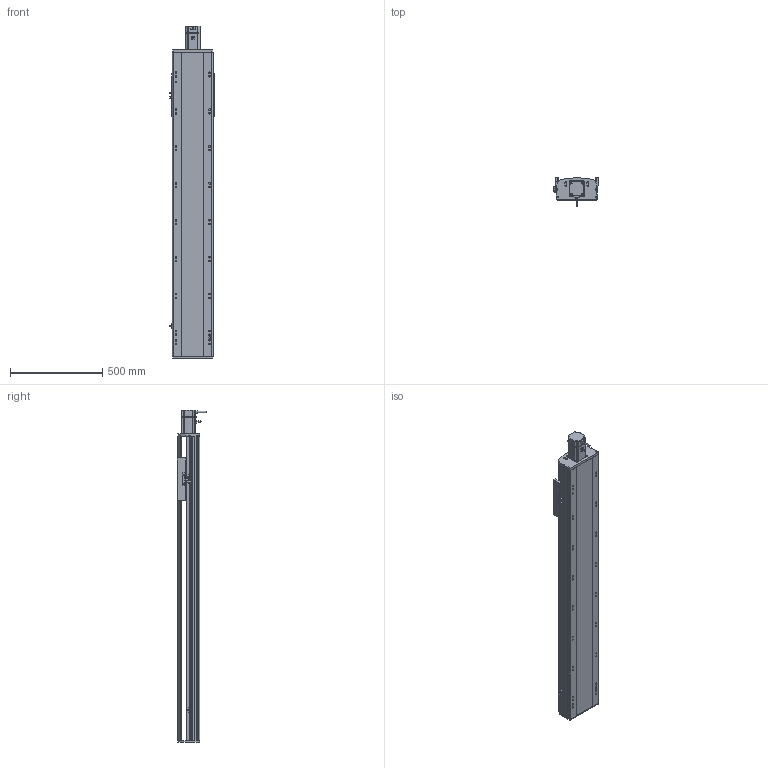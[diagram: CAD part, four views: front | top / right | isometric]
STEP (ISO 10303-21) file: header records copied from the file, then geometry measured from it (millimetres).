
FILE_DESCRIPTION (( 'STEP AP214' ), '1' );
FILE_NAME ('RTH22-XX-1250-E-M75-C4.STEP', '2025-10-24T10:48:41', ( 'Microsoft' ), ( 'Microsoft' ), 'SwSTEP 2.0', 'SolidWorks 2018', '' );
FILE_SCHEMA (( 'AUTOMOTIVE_DESIGN' ));
Length unit declared in the file: millimetre
Products named in the file (9): N_RTH22-E-008萇儂啣^RTH22-XX-XX-E-M75-C4; N_RTH22-E-007奻裔^RTH22-XX-XX-E-M75-C4; N_RTH22-E-011菁釱^RTH22-XX-XX-E-M75-C4; RTH22-XX-1250-E-M75-C4; N_750W萇儂^RTH22-XX-XX-E-M75-C4; N_RTH22-GY-001耜裔^RTH22-XX-XX-E-M75-C4; N_RTH22-E-004-SFS25賑釱^RTH22-XX-XX-E-M75-C4; N_OMRON EE-SX672 传感器^RTH22-XX-XX-E-M75-C4; N_RTH22-GY-013外置感应片^RTH22-XX-XX-E-M75-C4
Assembly tree (10 placements, depth 2):
  RTH22-XX-1250-E-M75-C4
    N_RTH22-E-011菁釱^RTH22-XX-XX-E-M75-C4
    N_RTH22-GY-001耜裔^RTH22-XX-XX-E-M75-C4
    N_RTH22-E-008萇儂啣^RTH22-XX-XX-E-M75-C4
    N_RTH22-E-007奻裔^RTH22-XX-XX-E-M75-C4
    N_RTH22-GY-013外置感应片^RTH22-XX-XX-E-M75-C4
    N_RTH22-E-004-SFS25賑釱^RTH22-XX-XX-E-M75-C4
    N_750W萇儂^RTH22-XX-XX-E-M75-C4
    N_OMRON EE-SX672 传感器^RTH22-XX-XX-E-M75-C4  x3
Bounding box: 238.5 x 160.7 x 1799 mm (x, y, z)
Volume: 22347575.5 mm3; surface area: 2299312 mm2
Topology: 10 solids, 10 shells, 1577 faces, 4324 edges, 2789 vertices
Faces by surface type: plane 760, cylinder 472, bspline 279, cone 66
Entity records: 39947 total; most frequent: CARTESIAN_POINT 12441, ORIENTED_EDGE 5608, DIRECTION 5310, EDGE_CURVE 2804, VERTEX_POINT 1825, AXIS2_PLACEMENT_3D 1806, LINE 1698, VECTOR 1698
